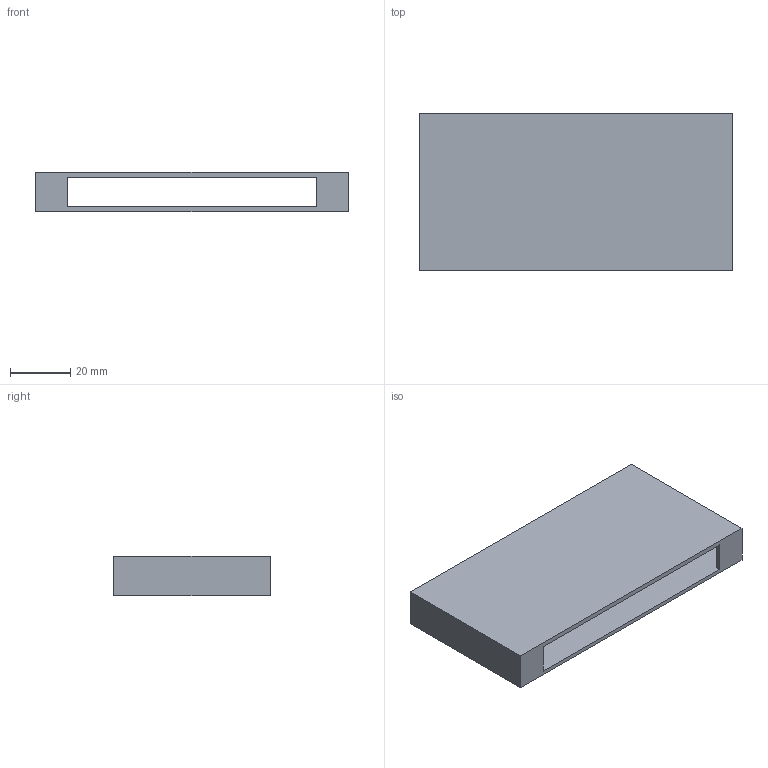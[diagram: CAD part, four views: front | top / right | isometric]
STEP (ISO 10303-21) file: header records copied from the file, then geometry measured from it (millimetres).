
FILE_DESCRIPTION (( 'STEP AP214' ), '1' );
FILE_NAME ('drillbitbox_case.STEP', '2014-10-12T04:20:02', ( 'Frank' ), ( '' ), 'SwSTEP 2.0', 'SolidWorks 2013', '' );
FILE_SCHEMA (( 'AUTOMOTIVE_DESIGN' ));
Length unit declared in the file: millimetre
Products named in the file (1): drillbitbox_case
Bounding box: 103.4 x 51.9 x 12.9 mm (x, y, z)
Volume: 17881.4 mm3; surface area: 24612.8 mm2
Topology: 1 solids, 1 shells, 21 faces, 60 edges, 40 vertices
Faces by surface type: plane 21
Entity records: 714 total; most frequent: CARTESIAN_POINT 122, ORIENTED_EDGE 120, DIRECTION 104, EDGE_CURVE 60, LINE 60, VECTOR 60, VERTEX_POINT 40, EDGE_LOOP 22
